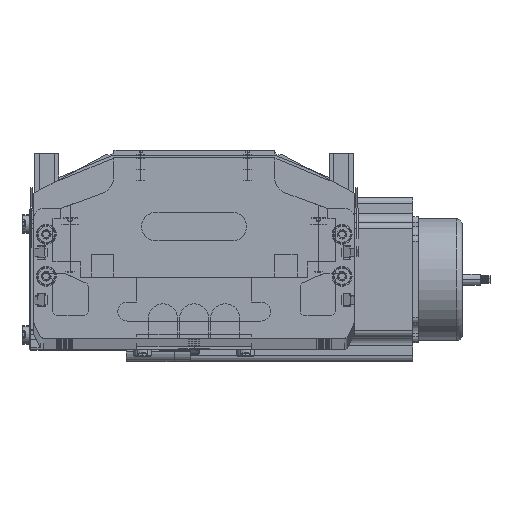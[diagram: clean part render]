
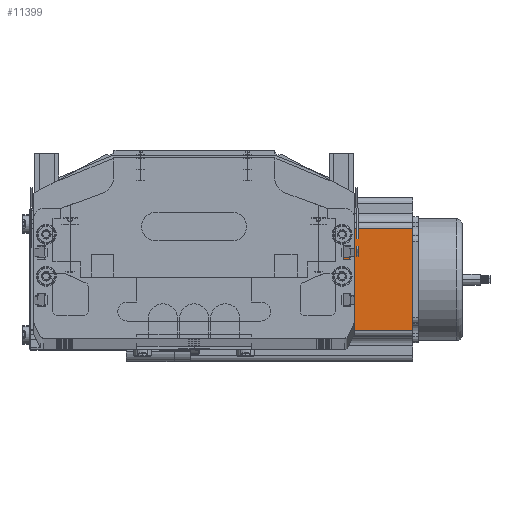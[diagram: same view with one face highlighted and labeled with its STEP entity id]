
A CAD part, top view. The second image highlights one B-rep face of the part: STEP entity #11399.
In plain terms, the highlighted planar face has unit normal (0, 0, 1) as drawn and (0, -1, 0) by its records, which use the part's own axes.
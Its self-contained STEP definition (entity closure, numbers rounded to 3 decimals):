
#11396 = ORIENTED_EDGE ( 'NONE', *, *, #11544, .T. ) ;
#11399 = ADVANCED_FACE ( 'NONE', ( #83212 ), #82835, .F. ) ;
#11401 = VERTEX_POINT ( 'NONE', #60357 ) ;
#11405 = EDGE_CURVE ( 'NONE', #11637, #11644, #60336, .T. ) ;
#11406 = ORIENTED_EDGE ( 'NONE', *, *, #11665, .F. ) ;
#11408 = ORIENTED_EDGE ( 'NONE', *, *, #11749, .T. ) ;
#11414 = VERTEX_POINT ( 'NONE', #60335 ) ;
#11544 = EDGE_CURVE ( 'NONE', #11401, #11637, #58656, .T. ) ;
#11637 = VERTEX_POINT ( 'NONE', #60232 ) ;
#11644 = VERTEX_POINT ( 'NONE', #60219 ) ;
#11656 = EDGE_LOOP ( 'NONE', ( #11752, #11408, #11406, #11396 ) ) ;
#11665 = EDGE_CURVE ( 'NONE', #11401, #11414, #60465, .T. ) ;
#11749 = EDGE_CURVE ( 'NONE', #11644, #11414, #86814, .T. ) ;
#11752 = ORIENTED_EDGE ( 'NONE', *, *, #11405, .T. ) ;
#58656 = LINE ( 'NONE', #58675, #58681 ) ;
#58675 = CARTESIAN_POINT ( 'NONE',  ( 16.16, 0., 116.5 ) ) ;
#58680 = DIRECTION ( 'NONE',  ( 0., 0., -1. ) ) ;
#58681 = VECTOR ( 'NONE', #58680, 1000. ) ;
#60219 = CARTESIAN_POINT ( 'NONE',  ( 69.74, 0., 0. ) ) ;
#60232 = CARTESIAN_POINT ( 'NONE',  ( 16.16, 0., 0. ) ) ;
#60318 = CARTESIAN_POINT ( 'NONE',  ( 0., 0., 0. ) ) ;
#60335 = CARTESIAN_POINT ( 'NONE',  ( 69.74, 0., 116.5 ) ) ;
#60336 = LINE ( 'NONE', #60318, #60420 ) ;
#60357 = CARTESIAN_POINT ( 'NONE',  ( 16.16, 0., 116.5 ) ) ;
#60419 = DIRECTION ( 'NONE',  ( 1., 0., 0. ) ) ;
#60420 = VECTOR ( 'NONE', #60419, 1000. ) ;
#60430 = DIRECTION ( 'NONE',  ( 1., 0., 0. ) ) ;
#60439 = VECTOR ( 'NONE', #60430, 1000. ) ;
#60443 = CARTESIAN_POINT ( 'NONE',  ( 0., 0., 116.5 ) ) ;
#60465 = LINE ( 'NONE', #60443, #60439 ) ;
#82835 = PLANE ( 'NONE',  #82839 ) ;
#82838 = CARTESIAN_POINT ( 'NONE',  ( 0., 0., 116.5 ) ) ;
#82839 = AXIS2_PLACEMENT_3D ( 'NONE', #82838, #82848, #82847 ) ;
#82847 = DIRECTION ( 'NONE',  ( 0., 0., 1. ) ) ;
#82848 = DIRECTION ( 'NONE',  ( 0., 1., 0. ) ) ;
#83212 = FACE_OUTER_BOUND ( 'NONE', #11656, .T. ) ;
#86810 = DIRECTION ( 'NONE',  ( 0., 0., 1. ) ) ;
#86811 = VECTOR ( 'NONE', #86810, 1000. ) ;
#86813 = CARTESIAN_POINT ( 'NONE',  ( 69.74, 0., 116.5 ) ) ;
#86814 = LINE ( 'NONE', #86813, #86811 ) ;
